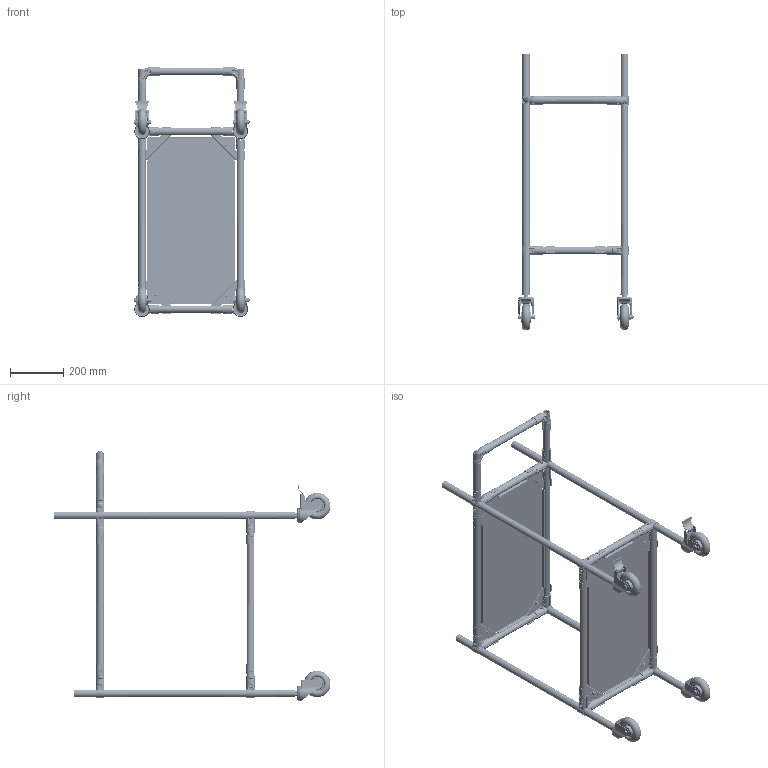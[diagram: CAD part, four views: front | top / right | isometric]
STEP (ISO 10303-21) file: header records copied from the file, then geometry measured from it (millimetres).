
FILE_DESCRIPTION (( 'STEP AP214' ), '1' );
FILE_NAME ('RSI-MST-700x400x900-2.STEP', '2026-01-23T04:47:33', ( '' ), ( '' ), 'SwSTEP 2.0', 'SolidWorks 2022', '' );
FILE_SCHEMA (( 'AUTOMOTIVE_DESIGN' ));
Length unit declared in the file: millimetre
Products named in the file (30): PR-28X3-A_L=750 мм; PR-28X3-A_L=200 мм; Шайба DIN7980_D8 DIN 7980; D-17^df-17b; PR-28X3-A_L=150 мм; FHJ-404; df-3b_Для сборки; RSI-MST-700x400x900-2; D-4; F-170^df-17b; Зеркально отразитьfh-1010b; Гайка DIN934_M6; Винт полусфера ISO 7380_М6х16; PR-28X3-A_L=300 мм; D-2; df-17b_Кронштейн соединительный DF17B; F-170; df-2b_Кронштейн соединительный DF2B; Шайба DIN125_6; PR-28X3-A_Труба алюминиевая d28 мм; fh-1010b; PR-28X3-A_L=350 мм; D-3; F-180-1^df-17b; PR-28X3-A_L=600 мм; Polka RSI-MST-700x400x900-2; PR-28X3-A_L=80 мм; f-110-x.stp; FHJ-405; F-180-1
Assembly tree (105 placements, depth 3):
  RSI-MST-700x400x900-2
    PR-28X3-A_L=600 мм  x4
    df-2b_Кронштейн соединительный DF2B  x6
      D-2
      D-3
      F-180-1
      F-170
      PR-28X3-A_Труба алюминиевая d28 мм
      PR-28X3-A_L=200 мм
    PR-28X3-A_L=750 мм  x4
    df-3b_Для сборки  x2
      D-4
      D-2
      F-180-1
      F-170
      PR-28X3-A_L=200 мм
      PR-28X3-A_L=350 мм
    PR-28X3-A_L=300 мм  x5
    PR-28X3-A_L=150 мм  x2
    df-17b_Кронштейн соединительный DF17B  x2
      D-17^df-17b
      F-180-1^df-17b
      F-170^df-17b
      PR-28X3-A_L=80 мм
    f-110-x.stp  x4
    FHJ-405  x2
    FHJ-404  x2
    fh-1010b  x4
    Зеркально отразитьfh-1010b  x4
    Polka RSI-MST-700x400x900-2  x2
    Винт полусфера ISO 7380_М6х16  x8
    Шайба DIN125_6  x8
    Шайба DIN7980_D8 DIN 7980  x8
    Гайка DIN934_M6  x8
Bounding box: 435 x 1043 x 942.5 mm (x, y, z)
Volume: 5821672.6 mm3; surface area: 3892965.8 mm2
Topology: 163 solids, 163 shells, 8114 faces, 20634 edges, 13172 vertices
Faces by surface type: cylinder 3384, plane 2252, bspline 1112, cone 658, torus 548, sphere 160
Entity records: 103738 total; most frequent: CARTESIAN_POINT 59617, ORIENTED_EDGE 8792, DIRECTION 7489, EDGE_CURVE 4396, AXIS2_PLACEMENT_3D 2968, VERTEX_POINT 2798, EDGE_LOOP 1906, ADVANCED_FACE 1742
